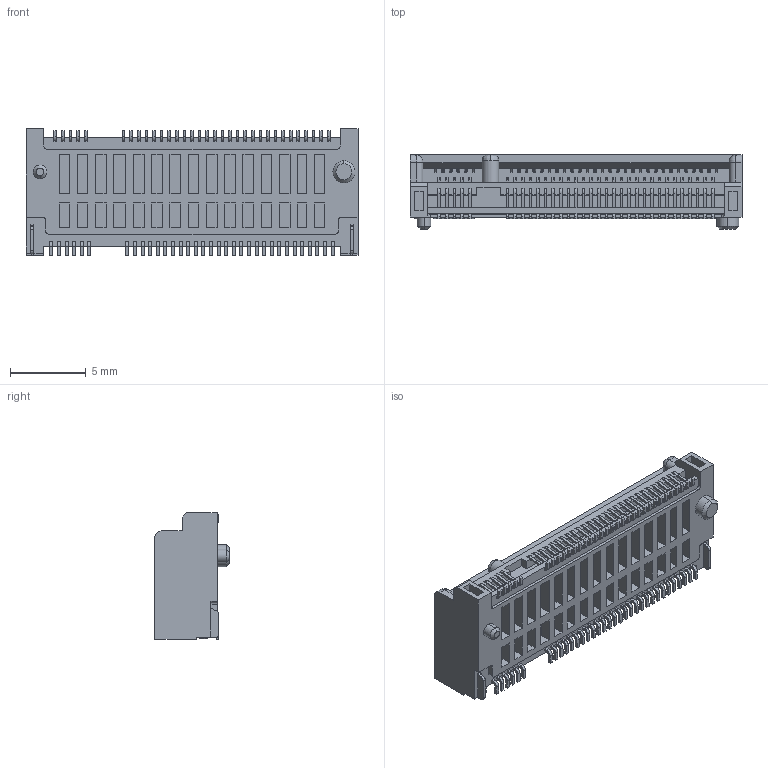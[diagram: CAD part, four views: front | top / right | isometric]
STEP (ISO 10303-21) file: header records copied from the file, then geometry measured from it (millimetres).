
FILE_DESCRIPTION (( 'STEP AP203' ), '1' );
FILE_NAME ('8402-C67G00B5T-G4-1120810.STEP', '2023-08-11T02:15:28', ( '' ), ( '' ), 'SwSTEP 2.0', 'SolidWorks 2019', '' );
FILE_SCHEMA (( 'CONFIG_CONTROL_DESIGN' ));
Products named in the file (2): 8402-C67G00B5T-G4-1120810
Assembly tree (1 placements, depth 2):
  8402-C67G00B5T-G4-1120810
    8402-C67G00B5T-G4-1120810
Bounding box: 21.85 x 4.9 x 8.35 mm (x, y, z)
Volume: 459.4 mm3; surface area: 1070.4 mm2
Topology: 3 solids, 3 shells, 2896 faces, 8235 edges, 5346 vertices
Faces by surface type: plane 2039, cylinder 704, bspline 149, cone 4
Entity records: 96587 total; most frequent: CARTESIAN_POINT 21690, ORIENTED_EDGE 16330, DIRECTION 14309, EDGE_CURVE 8165, VECTOR 6375, LINE 6375, VERTEX_POINT 5346, AXIS2_PLACEMENT_3D 3967
